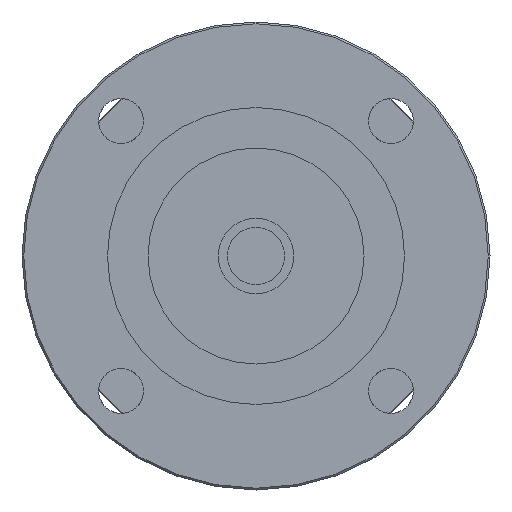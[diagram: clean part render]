
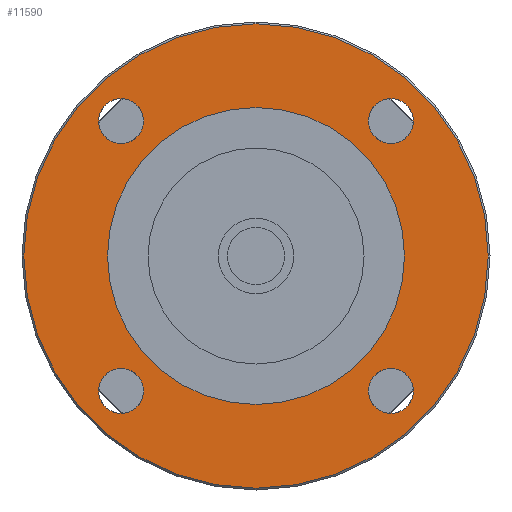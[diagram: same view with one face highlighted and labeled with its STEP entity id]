
A CAD part, left-side view. The second image highlights one B-rep face of the part: STEP entity #11590.
In plain terms, the highlighted planar face has unit normal (-1, 0, 0) as drawn and (0, 0, -1) by its records, which use the part's own axes.
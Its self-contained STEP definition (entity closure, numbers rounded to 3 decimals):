
#10430=CARTESIAN_POINT('',(31.227,-37.477,-60.9));
#10440=VERTEX_POINT('',#10430);
#10470=CARTESIAN_POINT('',(37.477,-37.477,-60.9));
#10480=DIRECTION('',(0.,0.,-1.));
#10490=DIRECTION('',(1.,0.,0.));
#10500=AXIS2_PLACEMENT_3D('',#10470,#10480,#10490);
#10510=CIRCLE('',#10500,6.25);
#10520=CARTESIAN_POINT('',(43.727,-37.477,-60.9));
#10530=VERTEX_POINT('',#10520);
#10540=EDGE_CURVE('',#10530,#10440,#10510,.T.);
#10740=CARTESIAN_POINT('',(0.,0.,
-60.9));
#10750=DIRECTION('',(0.,0.,-1.));
#10760=DIRECTION('',(1.,0.,0.));
#10770=AXIS2_PLACEMENT_3D('',#10740,#10750,#10760);
#10780=PLANE('',#10770);
#10790=CARTESIAN_POINT('',(-37.477,-37.477,-60.9));
#10800=DIRECTION('',(0.,0.,-1.));
#10810=DIRECTION('',(1.,0.,0.));
#10820=AXIS2_PLACEMENT_3D('',#10790,#10800,#10810);
#10830=CIRCLE('',#10820,6.25);
#10840=CARTESIAN_POINT('',(-31.227,-37.477,-60.9));
#10850=VERTEX_POINT('',#10840);
#10860=CARTESIAN_POINT('',(-43.727,-37.477,-60.9));
#10870=VERTEX_POINT('',#10860);
#10880=EDGE_CURVE('',#10850,#10870,#10830,.T.);
#10890=ORIENTED_EDGE('',*,*,#10880,.F.);
#10900=EDGE_CURVE('',#10870,#10850,#10830,.T.);
#10910=ORIENTED_EDGE('',*,*,#10900,.F.);
#10920=EDGE_LOOP('',(#10910,#10890));
#10930=FACE_BOUND('',#10920,.T.);
#10940=CARTESIAN_POINT('',(-37.477,37.477,-60.9));
#10950=DIRECTION('',(0.,0.,-1.));
#10960=DIRECTION('',(1.,0.,0.));
#10970=AXIS2_PLACEMENT_3D('',#10940,#10950,#10960);
#10980=CIRCLE('',#10970,6.25);
#10990=CARTESIAN_POINT('',(-31.227,37.477,-60.9));
#11000=VERTEX_POINT('',#10990);
#11010=CARTESIAN_POINT('',(-43.727,37.477,-60.9));
#11020=VERTEX_POINT('',#11010);
#11030=EDGE_CURVE('',#11000,#11020,#10980,.T.);
#11040=ORIENTED_EDGE('',*,*,#11030,.F.);
#11050=EDGE_CURVE('',#11020,#11000,#10980,.T.);
#11060=ORIENTED_EDGE('',*,*,#11050,.F.);
#11070=EDGE_LOOP('',(#11060,#11040));
#11080=FACE_BOUND('',#11070,.T.);
#11090=CARTESIAN_POINT('',(37.477,37.477,-60.9));
#11100=DIRECTION('',(0.,0.,-1.));
#11110=DIRECTION('',(1.,0.,0.));
#11120=AXIS2_PLACEMENT_3D('',#11090,#11100,#11110);
#11130=CIRCLE('',#11120,6.25);
#11140=CARTESIAN_POINT('',(43.727,37.477,-60.9));
#11150=VERTEX_POINT('',#11140);
#11160=CARTESIAN_POINT('',(31.227,37.477,-60.9));
#11170=VERTEX_POINT('',#11160);
#11180=EDGE_CURVE('',#11150,#11170,#11130,.T.);
#11190=ORIENTED_EDGE('',*,*,#11180,.F.);
#11200=EDGE_CURVE('',#11170,#11150,#11130,.T.);
#11210=ORIENTED_EDGE('',*,*,#11200,.F.);
#11220=EDGE_LOOP('',(#11210,#11190));
#11230=FACE_BOUND('',#11220,.T.);
#11240=ORIENTED_EDGE('',*,*,#10540,.F.);
#11250=EDGE_CURVE('',#10440,#10530,#10510,.T.);
#11260=ORIENTED_EDGE('',*,*,#11250,.F.);
#11270=EDGE_LOOP('',(#11260,#11240));
#11280=FACE_BOUND('',#11270,.T.);
#11290=CARTESIAN_POINT('',(0.,0.,
-60.9));
#11300=DIRECTION('',(0.,0.,-1.));
#11310=DIRECTION('',(1.,0.,0.));
#11320=AXIS2_PLACEMENT_3D('',#11290,#11300,#11310);
#11330=CIRCLE('',#11320,64.5);
#11340=CARTESIAN_POINT('',(64.5,0.,-60.9));
#11350=VERTEX_POINT('',#11340);
#11360=CARTESIAN_POINT('',(-64.5,0.,-60.9));
#11370=VERTEX_POINT('',#11360);
#11380=EDGE_CURVE('',#11350,#11370,#11330,.T.);
#11390=ORIENTED_EDGE('',*,*,#11380,.T.);
#11400=EDGE_CURVE('',#11370,#11350,#11330,.T.);
#11410=ORIENTED_EDGE('',*,*,#11400,.T.);
#11420=EDGE_LOOP('',(#11410,#11390));
#11430=FACE_OUTER_BOUND('',#11420,.T.);
#11440=CARTESIAN_POINT('',(0.,0.,
-60.9));
#11450=DIRECTION('',(0.,0.,1.));
#11460=DIRECTION('',(1.,0.,0.));
#11470=AXIS2_PLACEMENT_3D('',#11440,#11450,#11460);
#11480=CIRCLE('',#11470,41.25);
#11490=CARTESIAN_POINT('',(41.25,0.,-60.9));
#11500=VERTEX_POINT('',#11490);
#11510=CARTESIAN_POINT('',(-41.25,0.,-60.9));
#11520=VERTEX_POINT('',#11510);
#11530=EDGE_CURVE('',#11500,#11520,#11480,.T.);
#11540=ORIENTED_EDGE('',*,*,#11530,.T.);
#11550=EDGE_CURVE('',#11520,#11500,#11480,.T.);
#11560=ORIENTED_EDGE('',*,*,#11550,.T.);
#11570=EDGE_LOOP('',(#11560,#11540));
#11580=FACE_BOUND('',#11570,.T.);
#11590=ADVANCED_FACE('',(#10930,#11080,#11230,#11280,#11430,#11580),
#10780,.T.);
